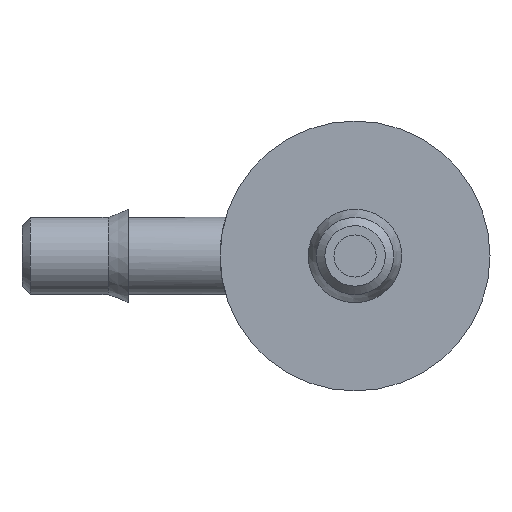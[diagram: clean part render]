
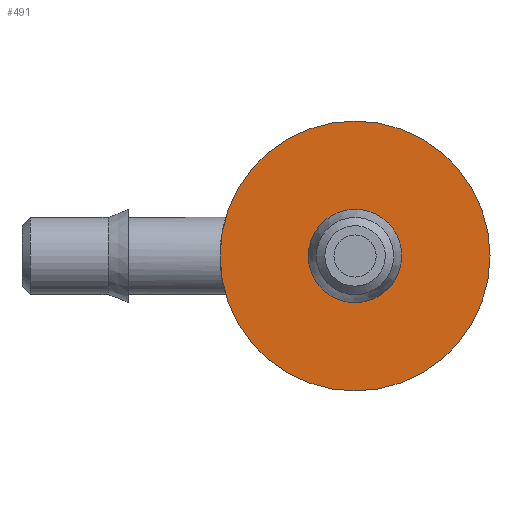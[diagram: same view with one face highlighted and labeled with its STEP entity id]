
A CAD part, left-side view. The second image highlights one B-rep face of the part: STEP entity #491.
In plain terms, the highlighted planar face has unit normal (-1, 0, 0).
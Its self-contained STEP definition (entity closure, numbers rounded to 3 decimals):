
#17=PLANE('',#580);
#32=FACE_BOUND('',#94,.T.);
#64=FACE_OUTER_BOUND('',#93,.T.);
#93=EDGE_LOOP('',(#413,#414));
#94=EDGE_LOOP('',(#415,#416));
#173=CIRCLE('',#549,1.145);
#174=CIRCLE('',#550,1.145);
#195=CIRCLE('',#578,4.);
#196=CIRCLE('',#579,4.);
#221=VERTEX_POINT('',#819);
#222=VERTEX_POINT('',#821);
#246=VERTEX_POINT('',#953);
#247=VERTEX_POINT('',#955);
#280=EDGE_CURVE('',#221,#222,#173,.T.);
#281=EDGE_CURVE('',#222,#221,#174,.T.);
#313=EDGE_CURVE('',#246,#247,#195,.T.);
#314=EDGE_CURVE('',#247,#246,#196,.T.);
#413=ORIENTED_EDGE('',*,*,#314,.F.);
#414=ORIENTED_EDGE('',*,*,#313,.F.);
#415=ORIENTED_EDGE('',*,*,#281,.F.);
#416=ORIENTED_EDGE('',*,*,#280,.F.);
#491=ADVANCED_FACE('',(#64,#32),#17,.F.);
#549=AXIS2_PLACEMENT_3D('',#822,#652,#653);
#550=AXIS2_PLACEMENT_3D('',#823,#654,#655);
#578=AXIS2_PLACEMENT_3D('',#956,#717,#718);
#579=AXIS2_PLACEMENT_3D('',#957,#719,#720);
#580=AXIS2_PLACEMENT_3D('',#958,#721,#722);
#652=DIRECTION('center_axis',(-1.,0.,0.));
#653=DIRECTION('ref_axis',(0.,-1.,0.));
#654=DIRECTION('center_axis',(-1.,0.,0.));
#655=DIRECTION('ref_axis',(0.,-1.,0.));
#717=DIRECTION('center_axis',(1.,0.,0.));
#718=DIRECTION('ref_axis',(0.,0.,-1.));
#719=DIRECTION('center_axis',(1.,0.,0.));
#720=DIRECTION('ref_axis',(0.,0.,-1.));
#721=DIRECTION('center_axis',(1.,0.,0.));
#722=DIRECTION('ref_axis',(0.,0.,-1.));
#819=CARTESIAN_POINT('',(0.,0.,-1.145));
#821=CARTESIAN_POINT('',(0.,1.145,0.));
#822=CARTESIAN_POINT('Origin',(0.,0.,0.));
#823=CARTESIAN_POINT('Origin',(0.,0.,0.));
#953=CARTESIAN_POINT('',(0.,-4.,0.));
#955=CARTESIAN_POINT('',(0.,0.,4.));
#956=CARTESIAN_POINT('Origin',(0.,0.,0.));
#957=CARTESIAN_POINT('Origin',(0.,0.,0.));
#958=CARTESIAN_POINT('Origin',(0.,-4.048,0.));
